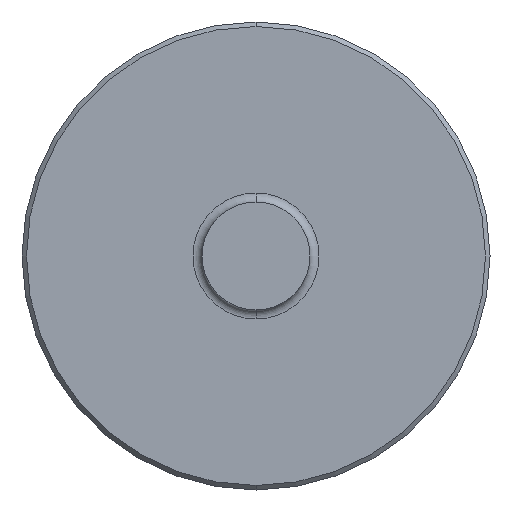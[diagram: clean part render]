
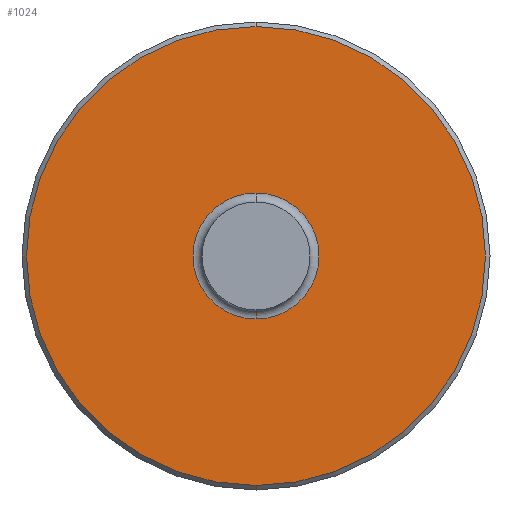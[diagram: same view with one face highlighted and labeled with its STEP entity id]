
A CAD part, front view. The second image highlights one B-rep face of the part: STEP entity #1024.
In plain terms, the highlighted planar face has unit normal (0, -1, 0).
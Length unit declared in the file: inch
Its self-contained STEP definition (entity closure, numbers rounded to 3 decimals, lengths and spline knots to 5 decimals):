
#18 = DIRECTION ( 'NONE',  ( 0., -1., 0. ) ) ;
#20 = CARTESIAN_POINT ( 'NONE',  ( 0., 0.325, 0. ) ) ;
#74 = AXIS2_PLACEMENT_3D ( 'NONE', #107, #18, #668 ) ;
#107 = CARTESIAN_POINT ( 'NONE',  ( 0.8125, 0.325, 0. ) ) ;
#157 = EDGE_CURVE ( 'NONE', #985, #317, #796, .T. ) ;
#177 = ORIENTED_EDGE ( 'NONE', *, *, #157, .T. ) ;
#191 = DIRECTION ( 'NONE',  ( 0., -1., 0. ) ) ;
#207 = ORIENTED_EDGE ( 'NONE', *, *, #678, .T. ) ;
#212 = VERTEX_POINT ( 'NONE', #495 ) ;
#214 = CARTESIAN_POINT ( 'NONE',  ( 0., 0.325, -0.79688 ) ) ;
#217 = AXIS2_PLACEMENT_3D ( 'NONE', #284, #191, #514 ) ;
#269 = DIRECTION ( 'NONE',  ( 0., 0., -1. ) ) ;
#284 = CARTESIAN_POINT ( 'NONE',  ( 0., 0.325, 0. ) ) ;
#316 = DIRECTION ( 'NONE',  ( 0., 0., -1. ) ) ;
#317 = VERTEX_POINT ( 'NONE', #605 ) ;
#400 = CIRCLE ( 'NONE', #976, 0.79688 ) ;
#420 = AXIS2_PLACEMENT_3D ( 'NONE', #20, #594, #269 ) ;
#449 = EDGE_LOOP ( 'NONE', ( #814, #784 ) ) ;
#472 = DIRECTION ( 'NONE',  ( 0., 1., 0. ) ) ;
#495 = CARTESIAN_POINT ( 'NONE',  ( 0., 0.325, 0.79688 ) ) ;
#514 = DIRECTION ( 'NONE',  ( 0., 0., -1. ) ) ;
#518 = EDGE_LOOP ( 'NONE', ( #177, #207 ) ) ;
#538 = CIRCLE ( 'NONE', #420, 0.21875 ) ;
#568 = EDGE_CURVE ( 'NONE', #914, #212, #400, .T. ) ;
#569 = CARTESIAN_POINT ( 'NONE',  ( 0., 0.325, 0. ) ) ;
#573 = CIRCLE ( 'NONE', #217, 0.79688 ) ;
#581 = CARTESIAN_POINT ( 'NONE',  ( 0., 0.325, -0.21875 ) ) ;
#594 = DIRECTION ( 'NONE',  ( 0., 1., 0. ) ) ;
#605 = CARTESIAN_POINT ( 'NONE',  ( 0., 0.325, 0.21875 ) ) ;
#668 = DIRECTION ( 'NONE',  ( 0., 0., -1. ) ) ;
#678 = EDGE_CURVE ( 'NONE', #317, #985, #538, .T. ) ;
#750 = PLANE ( 'NONE',  #74 ) ;
#774 = EDGE_CURVE ( 'NONE', #212, #914, #573, .T. ) ;
#784 = ORIENTED_EDGE ( 'NONE', *, *, #568, .T. ) ;
#796 = CIRCLE ( 'NONE', #931, 0.21875 ) ;
#814 = ORIENTED_EDGE ( 'NONE', *, *, #774, .T. ) ;
#830 = FACE_BOUND ( 'NONE', #518, .T. ) ;
#871 = CARTESIAN_POINT ( 'NONE',  ( 0., 0.325, 0. ) ) ;
#880 = DIRECTION ( 'NONE',  ( 0., -1., 0. ) ) ;
#914 = VERTEX_POINT ( 'NONE', #214 ) ;
#931 = AXIS2_PLACEMENT_3D ( 'NONE', #871, #472, #316 ) ;
#967 = DIRECTION ( 'NONE',  ( 0., 0., -1. ) ) ;
#976 = AXIS2_PLACEMENT_3D ( 'NONE', #569, #880, #967 ) ;
#985 = VERTEX_POINT ( 'NONE', #581 ) ;
#986 = FACE_OUTER_BOUND ( 'NONE', #449, .T. ) ;
#1024 = ADVANCED_FACE ( 'NONE', ( #830, #986 ), #750, .T. ) ;
